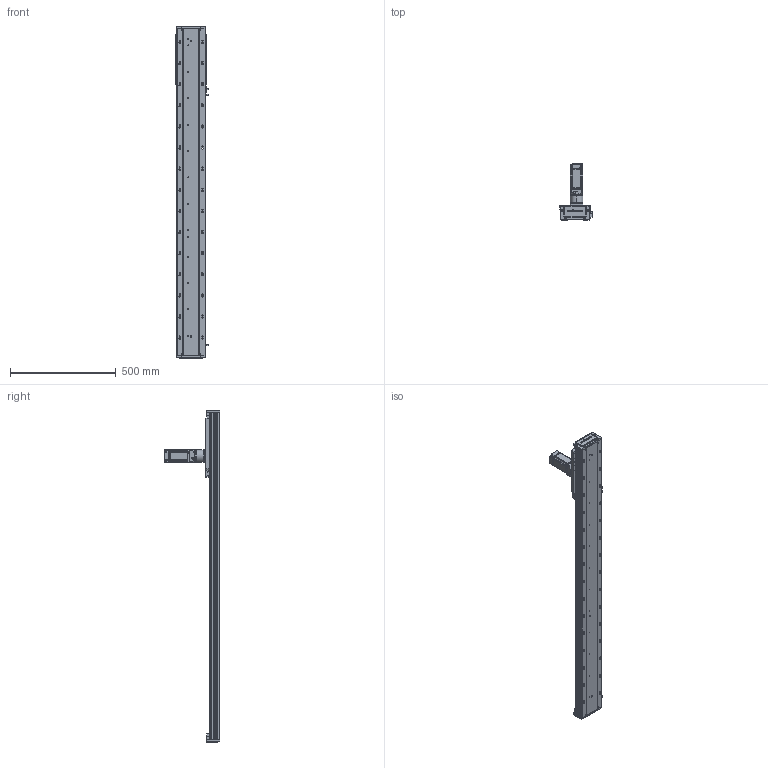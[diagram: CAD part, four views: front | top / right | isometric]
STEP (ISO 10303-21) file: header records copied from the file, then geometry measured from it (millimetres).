
FILE_DESCRIPTION (( 'STEP AP203' ), '1' );
FILE_NAME ('RY140-C-250-UK.SLDASM_1200.step', '2022-03-12T01:58:59', ( '' ), ( '' ), 'SwSTEP 2.0', 'SolidWorks 2016', '' );
FILE_SCHEMA (( 'CONFIG_CONTROL_DESIGN' ));
Length unit declared in the file: millimetre
Products named in the file (12): RY120外置感应片(140共用）; 覜茼ん672; RY140-300齿条模组型材底座_1200; RY140-喘沭裔啣; RY140-喘沭賑輸; 60ZDF珨撰俋倛芞T1 200W M4; RY140-C-250-UK.SLDASM_1200; 絳寢賑輸EGH15; 15; 140蚥薯蝶輸; RY140-絳寢EGH15-300-MK_1200; RY140-喘謫萇儂覃誹啣
Assembly tree (21 placements, depth 2):
  RY140-C-250-UK.SLDASM_1200
    RY140-300齿条模组型材底座_1200
    RY140-絳寢EGH15-300-MK_1200  x2
    絳寢賑輸EGH15  x6
    RY140-喘沭裔啣  x2
    覜茼ん672  x3
    RY140-喘沭賑輸
    RY120外置感应片(140共用）
    RY140-喘謫萇儂覃誹啣
    140蚥薯蝶輸  x2
    60ZDF珨撰俋倛芞T1 200W M4
    15
Bounding box: 153.7 x 263.5 x 1572 mm (x, y, z)
Volume: 5539759 mm3; surface area: 1464933.6 mm2
Topology: 21 solids, 21 shells, 3512 faces, 9348 edges, 6042 vertices
Faces by surface type: plane 1656, cylinder 1558, cone 252, bspline 46
Entity records: 79139 total; most frequent: CARTESIAN_POINT 17322, DIRECTION 12591, ORIENTED_EDGE 12550, EDGE_CURVE 6275, AXIS2_PLACEMENT_3D 4500, VERTEX_POINT 4107, LINE 3591, VECTOR 3591
